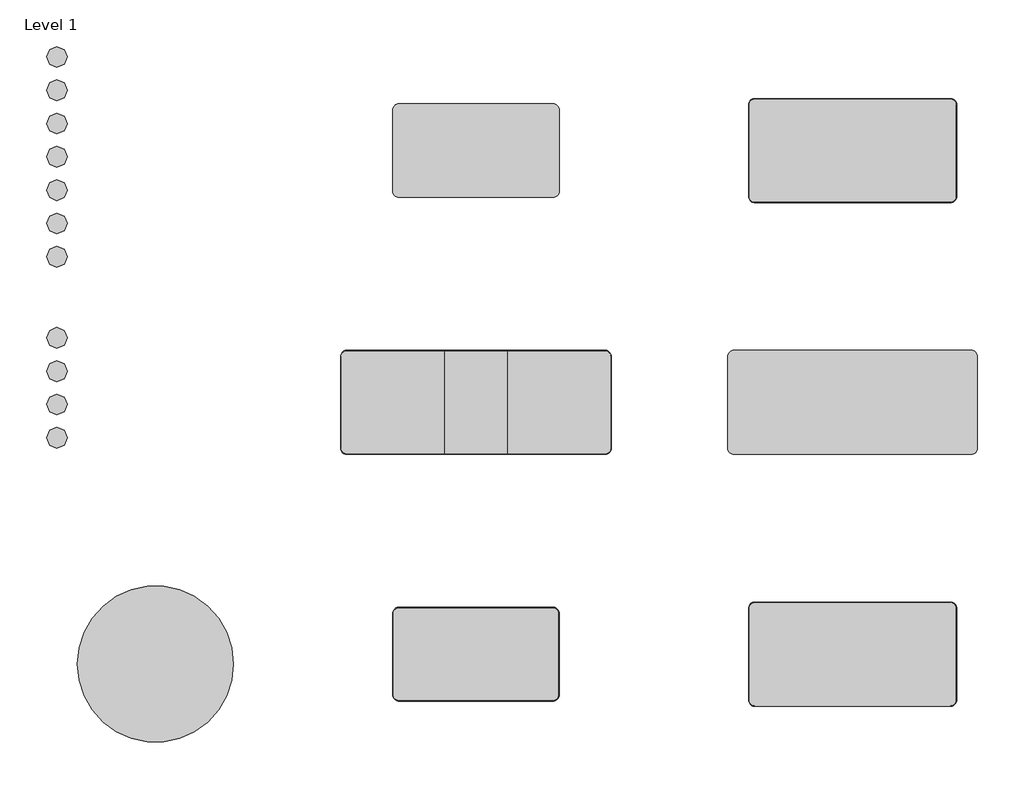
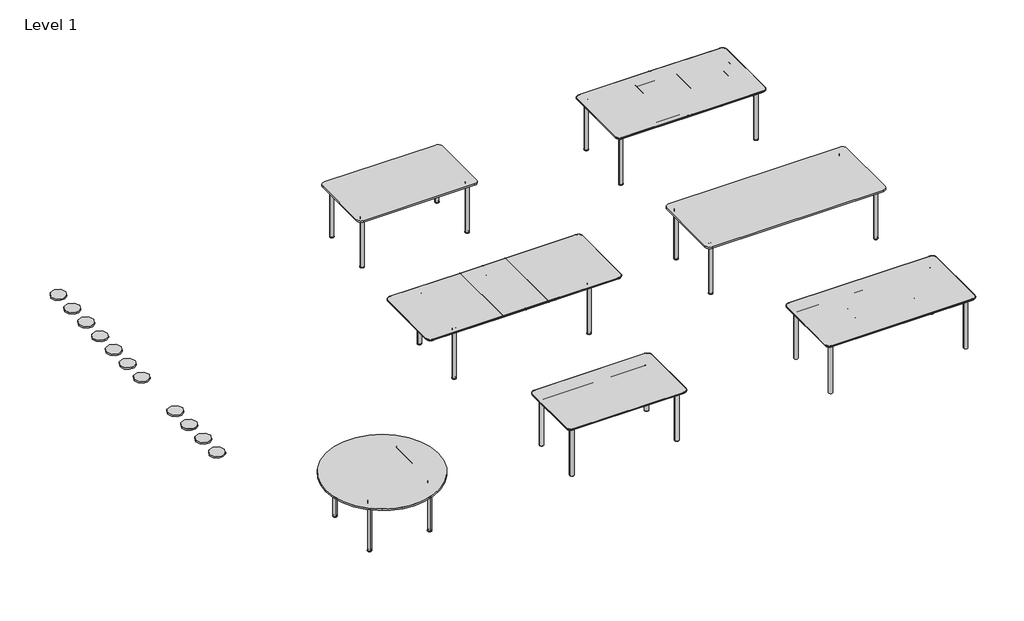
# One storey: 11 proxies, 7 furniture elements.
"""IFC4 building model written with IfcOpenShell, lengths in millimetres."""

from ifc_helpers import new_model, si_unit, origin, place, context, project, spatial, transform, mapped, element, save
from components import materialmodel_materialmodel_ac00f72a, furniture_cfee76de, furniture_ae0dc062, furniture_2b8ee67a, furniture_52b13ab5, furniture_a3abc43c, furniture_bf733eba, furniture_c67f00c6

model = new_model("IFC4")

# Units and contexts
model_context = context("Model", 3, world=origin())
ifc_project = project(units=[si_unit("LENGTHUNIT", "METRE", prefix="MILLI")], contexts=[model_context])

# Site, building, storey
site = spatial("IfcSite", under=ifc_project)
building = spatial("IfcBuilding", under=site)
storey = spatial("IfcBuildingStorey", under=building, Name="Level 1", Elevation=0.0)

# Proxies
placement = place(None, origin())
materialmodel_materialmodel_shape = materialmodel_materialmodel_ac00f72a(model_context)
element("IfcBuildingElementProxy", 1, Name="MaterialModel : MaterialModel", ObjectType="MaterialModel : MaterialModel", at=placement, inside=storey, context=model_context, shape_type="MappedRepresentation", body=[
    mapped(materialmodel_materialmodel_shape, transform((-10891.5892577, 6619.0444932, 0.0), x_axis=(1.0, 0.0, 0.0), y_axis=(0.0, 1.0, 0.0), z_axis=(0.0, 0.0, 1.0))),
])
element("IfcBuildingElementProxy", 2, Name="MaterialModel : MaterialModel", ObjectType="MaterialModel : MaterialModel", at=placement, inside=storey, context=model_context, shape_type="MappedRepresentation", body=[
    mapped(materialmodel_materialmodel_shape, transform((-10891.5892577, 6299.0444932, 0.0), x_axis=(1.0, 0.0, 0.0), y_axis=(0.0, 1.0, 0.0), z_axis=(0.0, 0.0, 1.0))),
])
element("IfcBuildingElementProxy", 3, Name="MaterialModel : MaterialModel", ObjectType="MaterialModel : MaterialModel", at=placement, inside=storey, context=model_context, shape_type="MappedRepresentation", body=[
    mapped(materialmodel_materialmodel_shape, transform((-10891.5892577, 5339.0444932, 0.0), x_axis=(1.0, 0.0, 0.0), y_axis=(0.0, 1.0, 0.0), z_axis=(0.0, 0.0, 1.0))),
])
element("IfcBuildingElementProxy", 4, Name="MaterialModel : MaterialModel", ObjectType="MaterialModel : MaterialModel", at=placement, inside=storey, context=model_context, shape_type="MappedRepresentation", body=[
    mapped(materialmodel_materialmodel_shape, transform((-10891.5892577, 5019.0444932, 0.0), x_axis=(1.0, 0.0, 0.0), y_axis=(0.0, 1.0, 0.0), z_axis=(0.0, 0.0, 1.0))),
])
element("IfcBuildingElementProxy", 5, Name="MaterialModel : MaterialModel", ObjectType="MaterialModel : MaterialModel", at=placement, inside=storey, context=model_context, shape_type="MappedRepresentation", body=[
    mapped(materialmodel_materialmodel_shape, transform((-10891.5892577, 6939.0444932, 0.0), x_axis=(1.0, 0.0, 0.0), y_axis=(0.0, 1.0, 0.0), z_axis=(0.0, 0.0, 1.0))),
])
element("IfcBuildingElementProxy", 6, Name="MaterialModel : MaterialModel", ObjectType="MaterialModel : MaterialModel", at=placement, inside=storey, context=model_context, shape_type="MappedRepresentation", body=[
    mapped(materialmodel_materialmodel_shape, transform((-10891.5892577, 5979.0444932, 0.0), x_axis=(1.0, 0.0, 0.0), y_axis=(0.0, 1.0, 0.0), z_axis=(0.0, 0.0, 1.0))),
])
element("IfcBuildingElementProxy", 7, Name="MaterialModel : MaterialModel", ObjectType="MaterialModel : MaterialModel", at=placement, inside=storey, context=model_context, shape_type="MappedRepresentation", body=[
    mapped(materialmodel_materialmodel_shape, transform((-10891.5892577, 4239.0444932, 0.0), x_axis=(1.0, 0.0, 0.0), y_axis=(0.0, 1.0, 0.0), z_axis=(0.0, 0.0, 1.0))),
])
element("IfcBuildingElementProxy", 8, Name="MaterialModel : MaterialModel", ObjectType="MaterialModel : MaterialModel", at=placement, inside=storey, context=model_context, shape_type="MappedRepresentation", body=[
    mapped(materialmodel_materialmodel_shape, transform((-10891.5892577, 3919.0444932, 0.0), x_axis=(1.0, 0.0, 0.0), y_axis=(0.0, 1.0, 0.0), z_axis=(0.0, 0.0, 1.0))),
])
element("IfcBuildingElementProxy", 9, Name="MaterialModel : MaterialModel", ObjectType="MaterialModel : MaterialModel", at=placement, inside=storey, context=model_context, shape_type="MappedRepresentation", body=[
    mapped(materialmodel_materialmodel_shape, transform((-10891.5892577, 3599.0444932, 0.0), x_axis=(1.0, 0.0, 0.0), y_axis=(0.0, 1.0, 0.0), z_axis=(0.0, 0.0, 1.0))),
])
element("IfcBuildingElementProxy", 10, Name="MaterialModel : MaterialModel", ObjectType="MaterialModel : MaterialModel", at=placement, inside=storey, context=model_context, shape_type="MappedRepresentation", body=[
    mapped(materialmodel_materialmodel_shape, transform((-10891.5892577, 3279.0444932, 0.0), x_axis=(1.0, 0.0, 0.0), y_axis=(0.0, 1.0, 0.0), z_axis=(0.0, 0.0, 1.0))),
])
element("IfcBuildingElementProxy", 11, Name="MaterialModel : MaterialModel", ObjectType="MaterialModel : MaterialModel", at=placement, inside=storey, context=model_context, shape_type="MappedRepresentation", body=[
    mapped(materialmodel_materialmodel_shape, transform((-10891.5892577, 5659.0444932, 0.0), x_axis=(1.0, 0.0, 0.0), y_axis=(0.0, 1.0, 0.0), z_axis=(0.0, 0.0, 1.0))),
])

# Furniture
furniture_shape = furniture_cfee76de(model_context)
element("IfcFurniture", 12, ObjectType="Fredericia - Plan Table Extendable - 6632 : Fredericia - Plan Table Extendable - 6632", at=placement, inside=storey, context=model_context, shape_type="MappedRepresentation", body=[
    mapped(furniture_shape, transform((-6865.1322174, 3619.1828005, 0.0), x_axis=(0.0, -1.0, 0.0), y_axis=(1.0, 0.0, 0.0), z_axis=(0.0, 0.0, 1.0))),
])
furniture_2_shape = furniture_ae0dc062(model_context)
element("IfcFurniture", 13, ObjectType="Fredericia - Plan Table - 6631 : Fredericia - Plan Table - 6631", at=placement, inside=storey, context=model_context, shape_type="MappedRepresentation", body=[
    mapped(furniture_2_shape, transform((-3245.1322174, 6039.1828005, 0.0), x_axis=(0.0, -1.0, 0.0), y_axis=(1.0, 0.0, 0.0), z_axis=(0.0, 0.0, 1.0))),
])
furniture_3_shape = furniture_2b8ee67a(model_context)
element("IfcFurniture", 14, ObjectType="Fredericia - Plan Table - 6645 : Fredericia - Plan Table - 6645", at=placement, inside=storey, context=model_context, shape_type="MappedRepresentation", body=[
    mapped(furniture_3_shape, transform((-9945.1322174, 1104.7942937, 0.0), x_axis=(-1.0, 0.0, 0.0), y_axis=(0.0, -1.0, 0.0), z_axis=(0.0, 0.0, 1.0))),
])
furniture_4_shape = furniture_52b13ab5(model_context)
element("IfcFurniture", 15, ObjectType="Fredericia - Plan Table - 6633 : Fredericia - Plan Table - 6633", at=placement, inside=storey, context=model_context, shape_type="MappedRepresentation", body=[
    mapped(furniture_4_shape, transform((-3245.1322174, 3619.1828005, 0.0), x_axis=(0.0, -1.0, 0.0), y_axis=(1.0, 0.0, 0.0), z_axis=(0.0, 0.0, 1.0))),
])
furniture_5_shape = furniture_a3abc43c(model_context)
element("IfcFurniture", 16, ObjectType="Fredericia - Plan Table - 6630 : Fredericia - Plan Table - 6630", at=placement, inside=storey, context=model_context, shape_type="MappedRepresentation", body=[
    mapped(furniture_5_shape, transform((-6865.1322174, 6039.1828005, 0.0), x_axis=(0.0, -1.0, 0.0), y_axis=(1.0, 0.0, 0.0), z_axis=(0.0, 0.0, 1.0))),
])
furniture_6_shape = furniture_bf733eba(model_context)
element("IfcFurniture", 17, ObjectType="Fredericia - Plan Wood Table - 6681 : Fredericia - Plan Wood Table - 6681", at=placement, inside=storey, context=model_context, shape_type="MappedRepresentation", body=[
    mapped(furniture_6_shape, transform((-3245.1322174, 1199.1828005, 0.0), x_axis=(1.0, 0.0, 0.0), y_axis=(0.0, 1.0, 0.0), z_axis=(0.0, 0.0, 1.0))),
])
furniture_7_shape = furniture_c67f00c6(model_context)
element("IfcFurniture", 18, ObjectType="Fredericia - Plan Wood Table - 6680 : Fredericia - Plan Wood Table - 6680", at=placement, inside=storey, context=model_context, shape_type="MappedRepresentation", body=[
    mapped(furniture_7_shape, transform((-6865.1322174, 1199.1828005, 0.0), x_axis=(1.0, 0.0, 0.0), y_axis=(0.0, 1.0, 0.0), z_axis=(0.0, 0.0, 1.0))),
])

save(model, "model.ifc")
